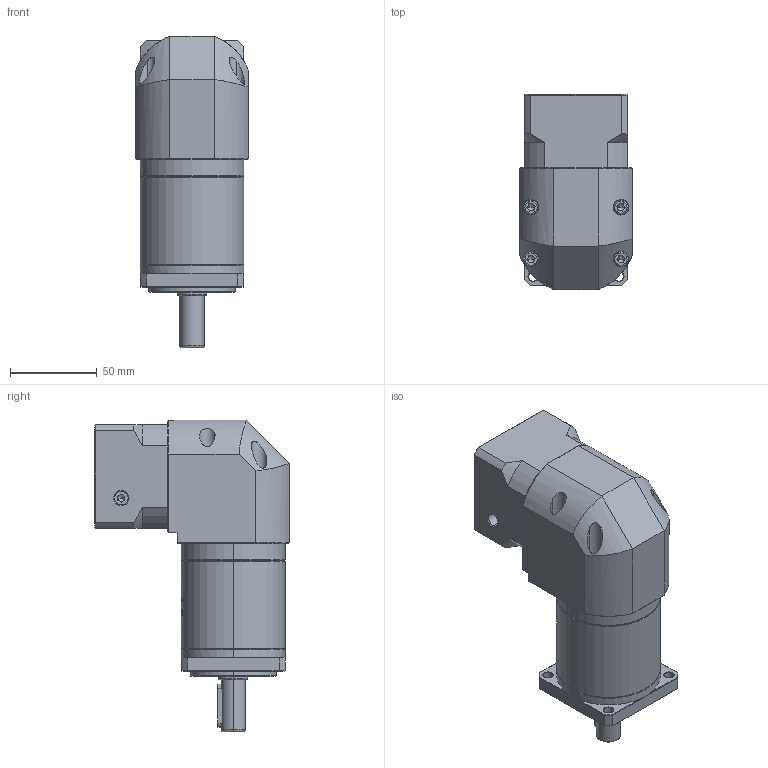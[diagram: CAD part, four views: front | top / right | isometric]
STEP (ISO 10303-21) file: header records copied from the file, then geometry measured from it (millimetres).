
FILE_DESCRIPTION (( 'STEP AP214' ), '1' );
FILE_NAME ('ZFR060-D14-L2-P2-14-50-70-M5.step', '2023-08-17T03:31:20', ( '' ), ( '' ), 'SwSTEP 2.0', 'SolidWorks 2016', '' );
FILE_SCHEMA (( 'AUTOMOTIVE_DESIGN' ));
Length unit declared in the file: millimetre
Products named in the file (1): ZFR060-D14-L2-P2-14-50-70-M5
Bounding box: 65 x 112.7 x 180 mm (x, y, z)
Volume: 585928.5 mm3; surface area: 81814.6 mm2
Topology: 5 solids, 6 shells, 1922 faces, 5126 edges, 3301 vertices
Faces by surface type: plane 847, cylinder 407, bspline 366, cone 288, torus 14
Entity records: 106729 total; most frequent: CARTESIAN_POINT 41968, ORIENTED_EDGE 10208, DIRECTION 7582, EDGE_CURVE 5104, VERTEX_POINT 3301, VECTOR 2612, LINE 2612, AXIS2_PLACEMENT_3D 2485
